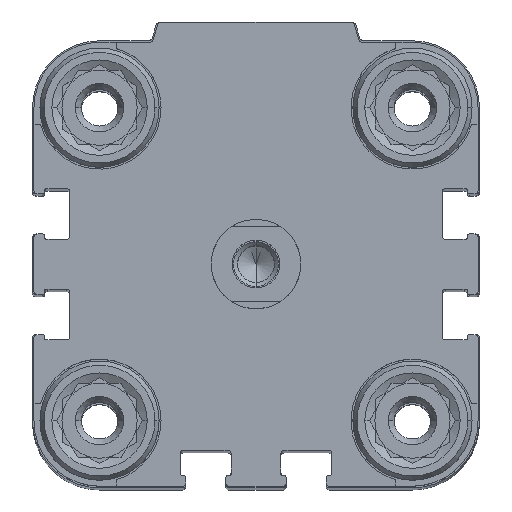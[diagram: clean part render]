
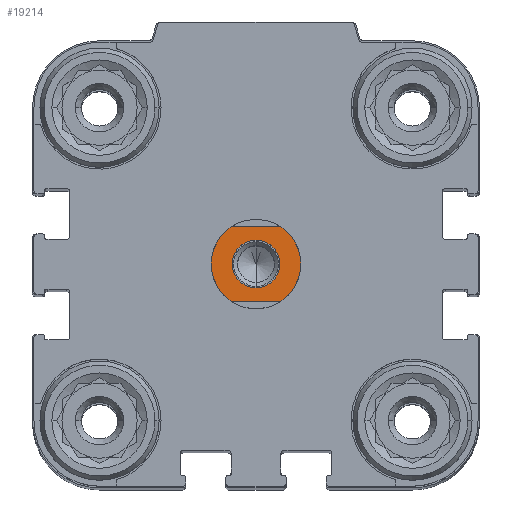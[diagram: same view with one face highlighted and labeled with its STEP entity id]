
A CAD part, top view. The second image highlights one B-rep face of the part: STEP entity #19214.
In plain terms, the highlighted planar face has unit normal (0, 0, 1).
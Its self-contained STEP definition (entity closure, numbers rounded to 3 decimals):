
#22 = ORIENTED_EDGE ( 'NONE', *, *, #16624, .T. ) ;
#184 = DIRECTION ( 'NONE',  ( -1., 0., 0. ) ) ;
#186 = EDGE_CURVE ( 'NONE', #12486, #7825, #7223, .T. ) ;
#291 = CARTESIAN_POINT ( 'NONE',  ( 0., 0., 6.5 ) ) ;
#944 = CARTESIAN_POINT ( 'NONE',  ( -3.317, 5., 6.5 ) ) ;
#958 = DIRECTION ( 'NONE',  ( 0., 0., -1. ) ) ;
#2117 = CIRCLE ( 'NONE', #5400, 6. ) ;
#2156 = AXIS2_PLACEMENT_3D ( 'NONE', #13103, #958, #4171 ) ;
#2367 = DIRECTION ( 'NONE',  ( 0., 1., 0. ) ) ;
#3179 = ORIENTED_EDGE ( 'NONE', *, *, #14339, .F. ) ;
#3722 = VERTEX_POINT ( 'NONE', #9249 ) ;
#3761 = DIRECTION ( 'NONE',  ( 0., 0., -1. ) ) ;
#4171 = DIRECTION ( 'NONE',  ( -1., 0., 0. ) ) ;
#4536 = CARTESIAN_POINT ( 'NONE',  ( 0., 3.2, 6.5 ) ) ;
#5346 = LINE ( 'NONE', #19300, #9457 ) ;
#5369 = EDGE_CURVE ( 'NONE', #19689, #3722, #2117, .T. ) ;
#5400 = AXIS2_PLACEMENT_3D ( 'NONE', #291, #15866, #184 ) ;
#5777 = ORIENTED_EDGE ( 'NONE', *, *, #15968, .F. ) ;
#5836 = FACE_OUTER_BOUND ( 'NONE', #9859, .T. ) ;
#6122 = AXIS2_PLACEMENT_3D ( 'NONE', #21454, #16217, #2367 ) ;
#6210 = AXIS2_PLACEMENT_3D ( 'NONE', #20193, #7854, #9789 ) ;
#6381 = CARTESIAN_POINT ( 'NONE',  ( 10., -5., 6.5 ) ) ;
#7192 = CARTESIAN_POINT ( 'NONE',  ( 6., 0., 6.5 ) ) ;
#7223 = CIRCLE ( 'NONE', #6122, 3.2 ) ;
#7825 = VERTEX_POINT ( 'NONE', #4536 ) ;
#7854 = DIRECTION ( 'NONE',  ( 0., 0., -1. ) ) ;
#7874 = DIRECTION ( 'NONE',  ( -1., 0., 0. ) ) ;
#8706 = EDGE_CURVE ( 'NONE', #9777, #21091, #5346, .T. ) ;
#8969 = ORIENTED_EDGE ( 'NONE', *, *, #186, .T. ) ;
#9029 = DIRECTION ( 'NONE',  ( 0., 1., 0. ) ) ;
#9249 = CARTESIAN_POINT ( 'NONE',  ( 3.317, -5., 6.5 ) ) ;
#9457 = VECTOR ( 'NONE', #10298, 1000. ) ;
#9777 = VERTEX_POINT ( 'NONE', #944 ) ;
#9789 = DIRECTION ( 'NONE',  ( -1., 0., 0. ) ) ;
#9859 = EDGE_LOOP ( 'NONE', ( #22043, #12841, #3179, #16889, #9948, #5777 ) ) ;
#9948 = ORIENTED_EDGE ( 'NONE', *, *, #5369, .F. ) ;
#10298 = DIRECTION ( 'NONE',  ( 1., 0., 0. ) ) ;
#10481 = CARTESIAN_POINT ( 'NONE',  ( 0., 0., 6.5 ) ) ;
#10619 = AXIS2_PLACEMENT_3D ( 'NONE', #10481, #17450, #19395 ) ;
#11178 = CIRCLE ( 'NONE', #17002, 3.2 ) ;
#11697 = AXIS2_PLACEMENT_3D ( 'NONE', #16146, #17637, #14098 ) ;
#11846 = EDGE_CURVE ( 'NONE', #3722, #18075, #15087, .T. ) ;
#12486 = VERTEX_POINT ( 'NONE', #12513 ) ;
#12513 = CARTESIAN_POINT ( 'NONE',  ( 0., -3.2, 6.5 ) ) ;
#12841 = ORIENTED_EDGE ( 'NONE', *, *, #15874, .F. ) ;
#13103 = CARTESIAN_POINT ( 'NONE',  ( 0., 0., 6.5 ) ) ;
#13293 = CARTESIAN_POINT ( 'NONE',  ( -6., 0., 6.5 ) ) ;
#14098 = DIRECTION ( 'NONE',  ( 0., 1., 0. ) ) ;
#14339 = EDGE_CURVE ( 'NONE', #18075, #14803, #16460, .T. ) ;
#14406 = CARTESIAN_POINT ( 'NONE',  ( 0., 0., 6.5 ) ) ;
#14803 = VERTEX_POINT ( 'NONE', #13293 ) ;
#15087 = LINE ( 'NONE', #6381, #19476 ) ;
#15866 = DIRECTION ( 'NONE',  ( 0., 0., -1. ) ) ;
#15874 = EDGE_CURVE ( 'NONE', #14803, #9777, #20433, .T. ) ;
#15968 = EDGE_CURVE ( 'NONE', #21091, #19689, #22594, .T. ) ;
#16146 = CARTESIAN_POINT ( 'NONE',  ( 0., 0., 6.5 ) ) ;
#16217 = DIRECTION ( 'NONE',  ( 0., 0., -1. ) ) ;
#16460 = CIRCLE ( 'NONE', #6210, 6. ) ;
#16624 = EDGE_CURVE ( 'NONE', #7825, #12486, #11178, .T. ) ;
#16889 = ORIENTED_EDGE ( 'NONE', *, *, #11846, .F. ) ;
#17002 = AXIS2_PLACEMENT_3D ( 'NONE', #14406, #3761, #9029 ) ;
#17245 = CARTESIAN_POINT ( 'NONE',  ( 3.317, 5., 6.5 ) ) ;
#17450 = DIRECTION ( 'NONE',  ( 0., 0., -1. ) ) ;
#17637 = DIRECTION ( 'NONE',  ( 0., 0., -1. ) ) ;
#17860 = FACE_BOUND ( 'NONE', #17912, .T. ) ;
#17912 = EDGE_LOOP ( 'NONE', ( #22, #8969 ) ) ;
#18075 = VERTEX_POINT ( 'NONE', #21941 ) ;
#19214 = ADVANCED_FACE ( 'NONE', ( #5836, #17860 ), #19455, .F. ) ;
#19300 = CARTESIAN_POINT ( 'NONE',  ( -10., 5., 6.5 ) ) ;
#19395 = DIRECTION ( 'NONE',  ( -1., 0., 0. ) ) ;
#19455 = PLANE ( 'NONE',  #11697 ) ;
#19476 = VECTOR ( 'NONE', #7874, 1000. ) ;
#19689 = VERTEX_POINT ( 'NONE', #7192 ) ;
#20193 = CARTESIAN_POINT ( 'NONE',  ( 0., 0., 6.5 ) ) ;
#20433 = CIRCLE ( 'NONE', #10619, 6. ) ;
#21091 = VERTEX_POINT ( 'NONE', #17245 ) ;
#21454 = CARTESIAN_POINT ( 'NONE',  ( 0., 0., 6.5 ) ) ;
#21941 = CARTESIAN_POINT ( 'NONE',  ( -3.317, -5., 6.5 ) ) ;
#22043 = ORIENTED_EDGE ( 'NONE', *, *, #8706, .F. ) ;
#22594 = CIRCLE ( 'NONE', #2156, 6. ) ;
